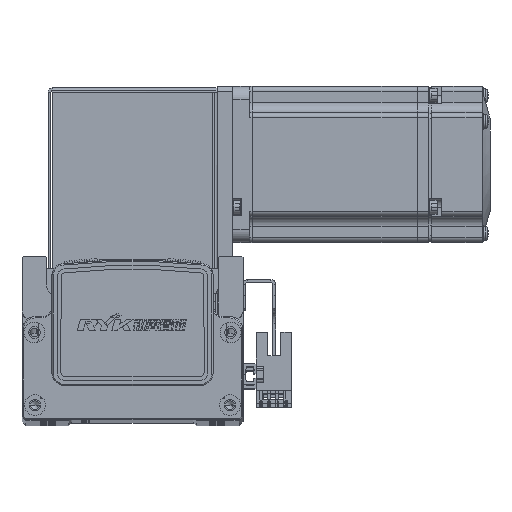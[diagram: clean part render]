
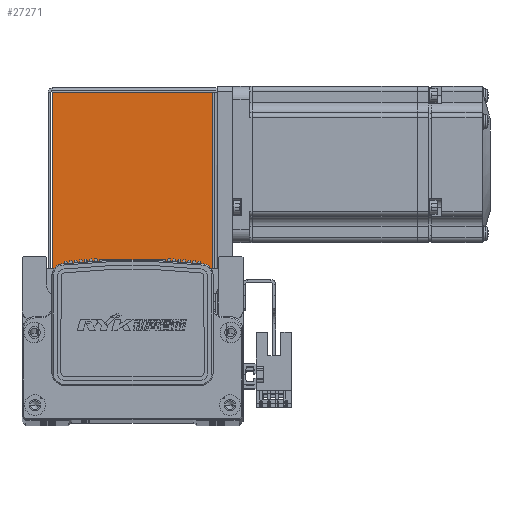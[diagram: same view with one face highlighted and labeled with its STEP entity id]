
A CAD part, top view. The second image highlights one B-rep face of the part: STEP entity #27271.
In plain terms, the highlighted planar face has unit normal (0, 0, 1) as drawn and (0, 0, -1) by its records, which use the part's own axes.
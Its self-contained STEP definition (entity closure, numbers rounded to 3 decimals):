
#13005 = EDGE_CURVE ( 'NONE', #31928, #31952, #78885, .T. ) ;
#13010 = EDGE_CURVE ( 'NONE', #31952, #31940, #78865, .T. ) ;
#13021 = EDGE_CURVE ( 'NONE', #31823, #31940, #78962, .T. ) ;
#13032 = EDGE_CURVE ( 'NONE', #31823, #31928, #78943, .T. ) ;
#13897 = CARTESIAN_POINT ( 'NONE',  ( -30.793, 0.737, -35. ) ) ;
#13945 = CARTESIAN_POINT ( 'NONE',  ( -30.793, 68.5, -35. ) ) ;
#13965 = CARTESIAN_POINT ( 'NONE',  ( 30.763, 0.737, -35. ) ) ;
#13969 = CARTESIAN_POINT ( 'NONE',  ( 30.763, 68.5, -35. ) ) ;
#20396 = ORIENTED_EDGE ( 'NONE', *, *, #13021, .F. ) ;
#20444 = ORIENTED_EDGE ( 'NONE', *, *, #13010, .T. ) ;
#20453 = ORIENTED_EDGE ( 'NONE', *, *, #13005, .T. ) ;
#20482 = ORIENTED_EDGE ( 'NONE', *, *, #13032, .T. ) ;
#27271 = ADVANCED_FACE ( 'NONE', ( #58843 ), #44756, .F. ) ;
#29366 = EDGE_LOOP ( 'NONE', ( #20444, #20396, #20482, #20453 ) ) ;
#31823 = VERTEX_POINT ( 'NONE', #13897 ) ;
#31928 = VERTEX_POINT ( 'NONE', #13945 ) ;
#31940 = VERTEX_POINT ( 'NONE', #13965 ) ;
#31952 = VERTEX_POINT ( 'NONE', #13969 ) ;
#36548 = AXIS2_PLACEMENT_3D ( 'NONE', #44782, #44748, #44797 ) ;
#44748 = DIRECTION ( 'NONE',  ( 0., 0., 1. ) ) ;
#44756 = PLANE ( 'NONE',  #36548 ) ;
#44782 = CARTESIAN_POINT ( 'NONE',  ( 0., 0., -35. ) ) ;
#44797 = DIRECTION ( 'NONE',  ( 0., -1., 0. ) ) ;
#58843 = FACE_OUTER_BOUND ( 'NONE', #29366, .T. ) ;
#65941 = CARTESIAN_POINT ( 'NONE',  ( 0., 68.5, -35. ) ) ;
#65962 = CARTESIAN_POINT ( 'NONE',  ( 32.5, 0.737, -35. ) ) ;
#65967 = CARTESIAN_POINT ( 'NONE',  ( 30.763, 68.5, -35. ) ) ;
#65977 = DIRECTION ( 'NONE',  ( 1., 0., 0. ) ) ;
#65983 = DIRECTION ( 'NONE',  ( 1., 0., 0. ) ) ;
#65992 = DIRECTION ( 'NONE',  ( 0., -1., 0. ) ) ;
#66026 = DIRECTION ( 'NONE',  ( 0., 1., 0. ) ) ;
#66033 = CARTESIAN_POINT ( 'NONE',  ( -30.793, 0., -35. ) ) ;
#78865 = LINE ( 'NONE', #65967, #78868 ) ;
#78868 = VECTOR ( 'NONE', #65992, 1000. ) ;
#78876 = VECTOR ( 'NONE', #65983, 1000. ) ;
#78885 = LINE ( 'NONE', #65941, #78876 ) ;
#78932 = VECTOR ( 'NONE', #65977, 1000. ) ;
#78938 = VECTOR ( 'NONE', #66026, 1000. ) ;
#78943 = LINE ( 'NONE', #66033, #78938 ) ;
#78962 = LINE ( 'NONE', #65962, #78932 ) ;
